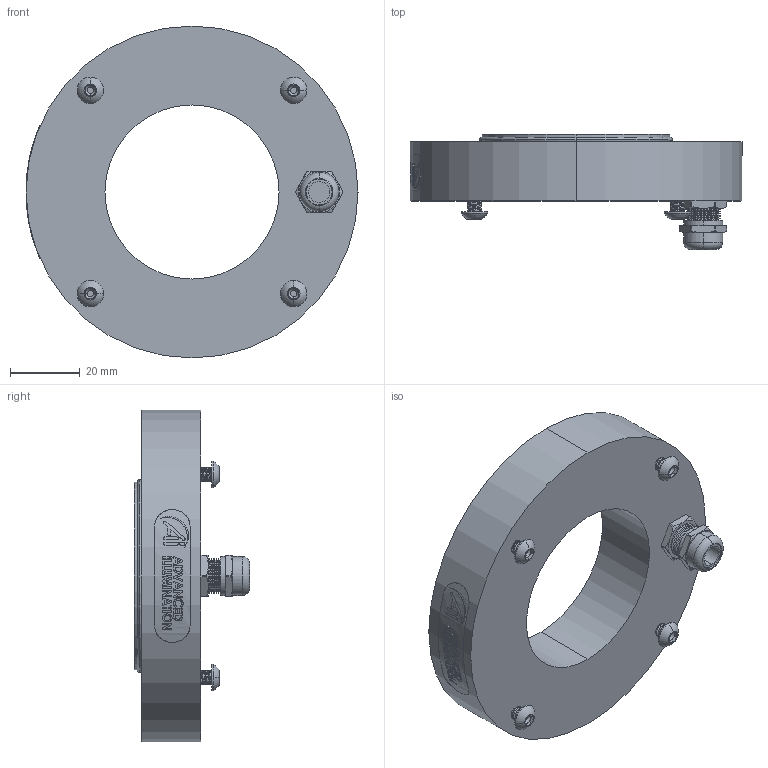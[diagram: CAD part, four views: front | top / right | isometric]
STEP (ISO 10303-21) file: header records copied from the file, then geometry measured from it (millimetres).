
FILE_DESCRIPTION (( 'STEP AP214' ), '1' );
FILE_NAME ('RL208-050_Default.stp', '2021-05-07T17:40:36', ( '' ), ( '' ), 'SwSTEP 2.0', 'SolidWorks 2018', '' );
FILE_SCHEMA (( 'AUTOMOTIVE_DESIGN' ));
Length unit declared in the file: inch
Products named in the file (11): PHTHF-256x.1875; 094479_Default<As Machined>; 90295A020; RL208-050_Default; BH-M4x8; 5413-54; 094517_Default<As Machined>; 094480_Default<As Machined>; 091052 RL208-050; CD10MW-BR_Model_Dome Fittings_Thread Type and Size(Dome)_M10 x 1.5_Hazardous Location-Explosive Proof(ATEX and EExe Versions)_No_; 094481_Default<As Machined>
Assembly tree (13 placements, depth 2):
  RL208-050_Default
    094479_Default<As Machined>
    094481_Default<As Machined>
    CD10MW-BR_Model_Dome Fittings_Thread Type and Size(Dome)_M10 x 1.5_Hazardous Location-Explosive Proof(ATEX and EExe Versions)_No_
    5413-54
    90295A020
    PHTHF-256x.1875
    094480_Default<As Machined>
    094517_Default<As Machined>
    091052 RL208-050
    BH-M4x8  x4
Bounding box: 95.35 x 33.06 x 95.34 mm (x, y, z)
Volume: 60300 mm3; surface area: 44108.8 mm2
Topology: 14 solids, 14 shells, 772 faces, 1863 edges, 1162 vertices
Faces by surface type: plane 244, cylinder 228, cone 139, bspline 121, torus 40
Entity records: 31174 total; most frequent: CARTESIAN_POINT 13642, ORIENTED_EDGE 2998, DIRECTION 2605, EDGE_CURVE 1499, AXIS2_PLACEMENT_3D 1057, VERTEX_POINT 940, EDGE_LOOP 699, ADVANCED_FACE 628
